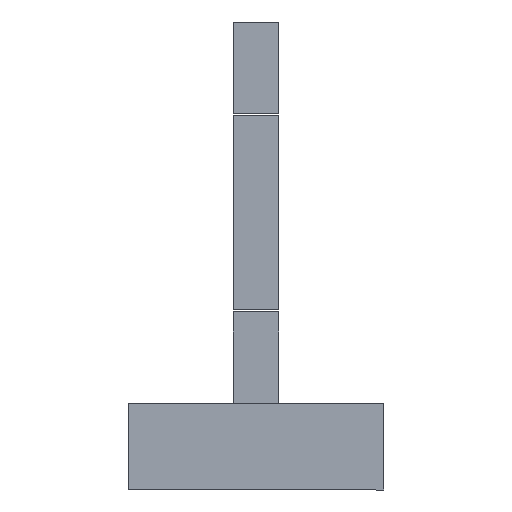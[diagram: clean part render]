
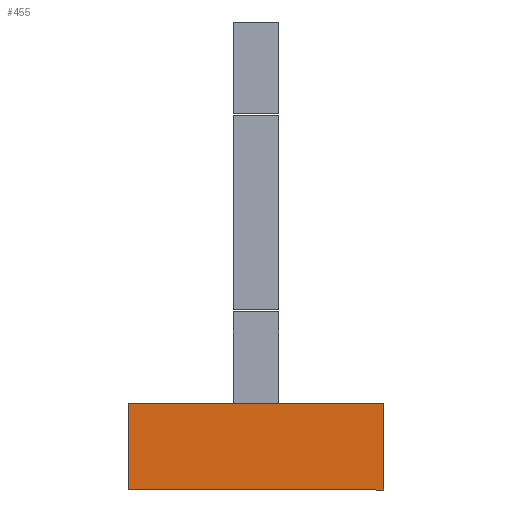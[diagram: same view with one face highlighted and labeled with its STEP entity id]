
A CAD part, left-side view. The second image highlights one B-rep face of the part: STEP entity #455.
In plain terms, the highlighted planar face has unit normal (-1, 0, 0).
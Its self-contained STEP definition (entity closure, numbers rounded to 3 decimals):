
#4 = DIRECTION ( 'NONE',  ( 0., 0., -1. ) ) ;
#54 = DIRECTION ( 'NONE',  ( 0., 0., -1. ) ) ;
#109 = DIRECTION ( 'NONE',  ( 0., -1., 0. ) ) ;
#266 = CARTESIAN_POINT ( 'NONE',  ( -56., -56., 36.871 ) ) ;
#318 = LINE ( 'NONE', #266, #2424 ) ;
#375 = VERTEX_POINT ( 'NONE', #2321 ) ;
#440 = ORIENTED_EDGE ( 'NONE', *, *, #1631, .F. ) ;
#455 = ADVANCED_FACE ( 'NONE', ( #1732 ), #702, .F. ) ;
#521 = EDGE_CURVE ( 'NONE', #375, #574, #641, .T. ) ;
#574 = VERTEX_POINT ( 'NONE', #1619 ) ;
#609 = VECTOR ( 'NONE', #109, 1000. ) ;
#621 = LINE ( 'NONE', #1446, #1575 ) ;
#641 = LINE ( 'NONE', #1015, #2621 ) ;
#679 = LINE ( 'NONE', #2571, #609 ) ;
#702 = PLANE ( 'NONE',  #1662 ) ;
#710 = EDGE_CURVE ( 'NONE', #1615, #574, #318, .T. ) ;
#759 = CARTESIAN_POINT ( 'NONE',  ( -56., -10., 36.871 ) ) ;
#776 = DIRECTION ( 'NONE',  ( 0., -1., 0. ) ) ;
#815 = EDGE_LOOP ( 'NONE', ( #961, #2199, #1838, #440, #1476, #1423 ) ) ;
#885 = VECTOR ( 'NONE', #776, 1000. ) ;
#961 = ORIENTED_EDGE ( 'NONE', *, *, #521, .T. ) ;
#1015 = CARTESIAN_POINT ( 'NONE',  ( -56., 56., -1.129 ) ) ;
#1048 = CARTESIAN_POINT ( 'NONE',  ( -56., 56., 36.871 ) ) ;
#1056 = CARTESIAN_POINT ( 'NONE',  ( -56., 10., 36.871 ) ) ;
#1118 = CARTESIAN_POINT ( 'NONE',  ( -56., 56., 36.871 ) ) ;
#1124 = DIRECTION ( 'NONE',  ( 1., 0., 0. ) ) ;
#1197 = EDGE_CURVE ( 'NONE', #1203, #375, #621, .T. ) ;
#1203 = VERTEX_POINT ( 'NONE', #1048 ) ;
#1214 = DIRECTION ( 'NONE',  ( 0., -1., 0. ) ) ;
#1244 = VERTEX_POINT ( 'NONE', #1056 ) ;
#1423 = ORIENTED_EDGE ( 'NONE', *, *, #1197, .T. ) ;
#1425 = LINE ( 'NONE', #2594, #885 ) ;
#1446 = CARTESIAN_POINT ( 'NONE',  ( -56., 56., 36.871 ) ) ;
#1476 = ORIENTED_EDGE ( 'NONE', *, *, #1967, .F. ) ;
#1575 = VECTOR ( 'NONE', #4, 1000. ) ;
#1615 = VERTEX_POINT ( 'NONE', #2406 ) ;
#1619 = CARTESIAN_POINT ( 'NONE',  ( -56., -56., -1.129 ) ) ;
#1631 = EDGE_CURVE ( 'NONE', #1244, #1948, #1766, .T. ) ;
#1662 = AXIS2_PLACEMENT_3D ( 'NONE', #1118, #1124, #2542 ) ;
#1732 = FACE_OUTER_BOUND ( 'NONE', #815, .T. ) ;
#1766 = LINE ( 'NONE', #1801, #2236 ) ;
#1801 = CARTESIAN_POINT ( 'NONE',  ( -56., 56., 36.871 ) ) ;
#1838 = ORIENTED_EDGE ( 'NONE', *, *, #2166, .F. ) ;
#1948 = VERTEX_POINT ( 'NONE', #759 ) ;
#1967 = EDGE_CURVE ( 'NONE', #1203, #1244, #679, .T. ) ;
#2166 = EDGE_CURVE ( 'NONE', #1948, #1615, #1425, .T. ) ;
#2199 = ORIENTED_EDGE ( 'NONE', *, *, #710, .F. ) ;
#2236 = VECTOR ( 'NONE', #2419, 1000. ) ;
#2321 = CARTESIAN_POINT ( 'NONE',  ( -56., 56., -1.129 ) ) ;
#2406 = CARTESIAN_POINT ( 'NONE',  ( -56., -56., 36.871 ) ) ;
#2419 = DIRECTION ( 'NONE',  ( 0., -1., 0. ) ) ;
#2424 = VECTOR ( 'NONE', #54, 1000. ) ;
#2542 = DIRECTION ( 'NONE',  ( 0., 1., 0. ) ) ;
#2571 = CARTESIAN_POINT ( 'NONE',  ( -56., 56., 36.871 ) ) ;
#2594 = CARTESIAN_POINT ( 'NONE',  ( -56., 56., 36.871 ) ) ;
#2621 = VECTOR ( 'NONE', #1214, 1000. ) ;
